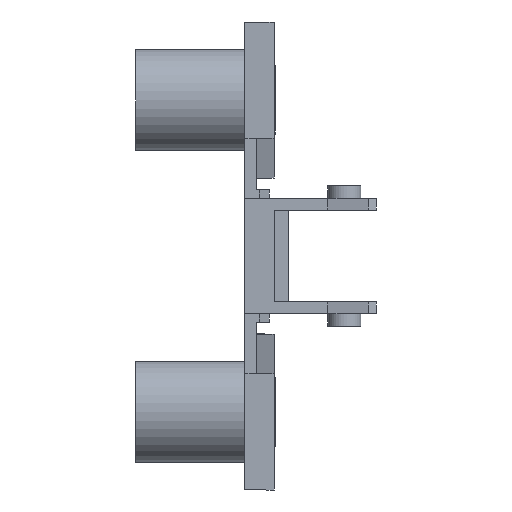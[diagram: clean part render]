
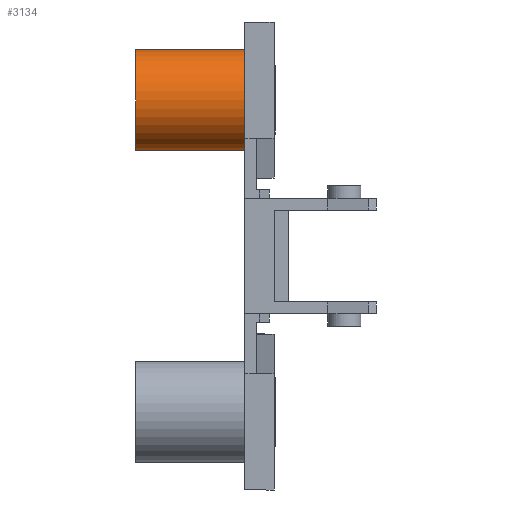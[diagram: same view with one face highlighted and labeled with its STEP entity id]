
A CAD part, front view. The second image highlights one B-rep face of the part: STEP entity #3134.
In plain terms, the highlighted cylindrical face has radius 5.2 mm (diameter 10.4 mm), a partial arc.
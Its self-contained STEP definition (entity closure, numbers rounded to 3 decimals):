
#36 = CARTESIAN_POINT ( 'NONE',  ( -3., 0., 21.2 ) ) ;
#75 = VERTEX_POINT ( 'NONE', #3085 ) ;
#79 = AXIS2_PLACEMENT_3D ( 'NONE', #3537, #456, #748 ) ;
#82 = EDGE_LOOP ( 'NONE', ( #919, #2541, #2728, #3322 ) ) ;
#93 = LINE ( 'NONE', #1529, #2982 ) ;
#127 = VERTEX_POINT ( 'NONE', #36 ) ;
#200 = DIRECTION ( 'NONE',  ( 0., 0., 1. ) ) ;
#218 = FACE_OUTER_BOUND ( 'NONE', #82, .T. ) ;
#404 = CARTESIAN_POINT ( 'NONE',  ( -14.2, 0., 21.2 ) ) ;
#456 = DIRECTION ( 'NONE',  ( 1., 0., 0. ) ) ;
#575 = EDGE_CURVE ( 'NONE', #75, #127, #3164, .T. ) ;
#710 = DIRECTION ( 'NONE',  ( 0., 0., -1. ) ) ;
#748 = DIRECTION ( 'NONE',  ( 0., 0., -1. ) ) ;
#919 = ORIENTED_EDGE ( 'NONE', *, *, #575, .F. ) ;
#1010 = CARTESIAN_POINT ( 'NONE',  ( -14.2, 0., 16. ) ) ;
#1011 = DIRECTION ( 'NONE',  ( -1., 0., 0. ) ) ;
#1095 = CIRCLE ( 'NONE', #3301, 5.2 ) ;
#1212 = AXIS2_PLACEMENT_3D ( 'NONE', #1010, #1897, #200 ) ;
#1267 = DIRECTION ( 'NONE',  ( 1., 0., 0. ) ) ;
#1452 = CARTESIAN_POINT ( 'NONE',  ( -14.2, 0., 10.8 ) ) ;
#1529 = CARTESIAN_POINT ( 'NONE',  ( -14.2, 0., 10.8 ) ) ;
#1784 = EDGE_CURVE ( 'NONE', #2134, #3228, #93, .T. ) ;
#1825 = CARTESIAN_POINT ( 'NONE',  ( -3., 0., 16. ) ) ;
#1897 = DIRECTION ( 'NONE',  ( -1., 0., 0. ) ) ;
#1939 = CARTESIAN_POINT ( 'NONE',  ( -3., 0., 10.8 ) ) ;
#2134 = VERTEX_POINT ( 'NONE', #1452 ) ;
#2358 = DIRECTION ( 'NONE',  ( 1., 0., 0. ) ) ;
#2427 = VECTOR ( 'NONE', #1267, 1000. ) ;
#2541 = ORIENTED_EDGE ( 'NONE', *, *, #3125, .F. ) ;
#2630 = EDGE_CURVE ( 'NONE', #3228, #127, #1095, .T. ) ;
#2728 = ORIENTED_EDGE ( 'NONE', *, *, #1784, .T. ) ;
#2840 = CYLINDRICAL_SURFACE ( 'NONE', #79, 5.2 ) ;
#2982 = VECTOR ( 'NONE', #2358, 1000. ) ;
#3085 = CARTESIAN_POINT ( 'NONE',  ( -14.2, 0., 21.2 ) ) ;
#3125 = EDGE_CURVE ( 'NONE', #2134, #75, #3330, .T. ) ;
#3134 = ADVANCED_FACE ( 'NONE', ( #218 ), #2840, .T. ) ;
#3164 = LINE ( 'NONE', #404, #2427 ) ;
#3228 = VERTEX_POINT ( 'NONE', #1939 ) ;
#3301 = AXIS2_PLACEMENT_3D ( 'NONE', #1825, #1011, #710 ) ;
#3322 = ORIENTED_EDGE ( 'NONE', *, *, #2630, .T. ) ;
#3330 = CIRCLE ( 'NONE', #1212, 5.2 ) ;
#3537 = CARTESIAN_POINT ( 'NONE',  ( -14.2, 0., 16. ) ) ;
